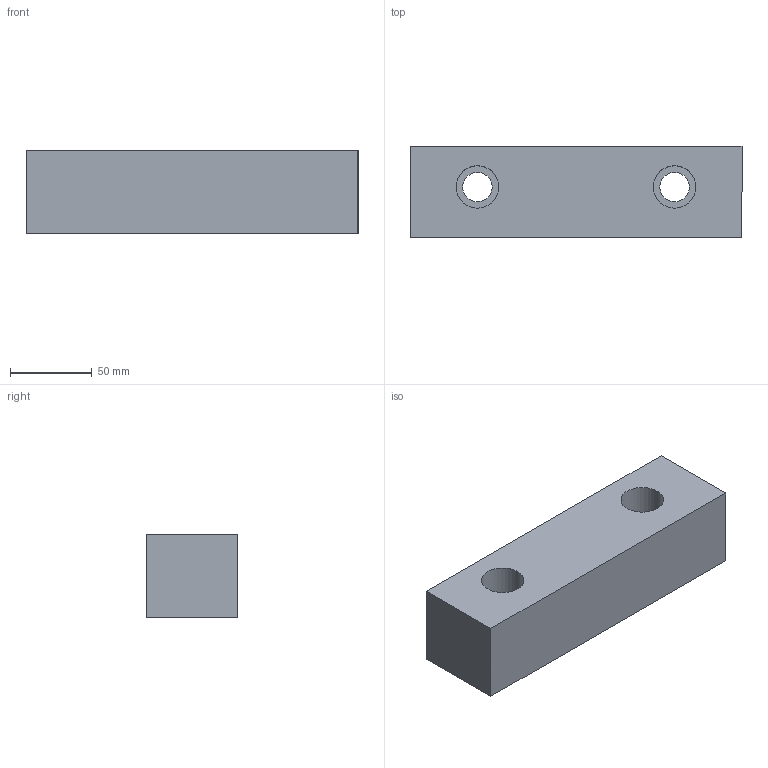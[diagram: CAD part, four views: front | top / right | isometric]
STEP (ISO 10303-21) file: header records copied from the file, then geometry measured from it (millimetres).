
FILE_DESCRIPTION (( 'STEP AP214' ), '1' );
FILE_NAME ('HKMVJ-82A, S [05-0235, 05-0238 ref].step', '2023-05-02T20:42:51', ( '' ), ( '' ), 'SwSTEP 2.0', 'SolidWorks 2022', '' );
FILE_SCHEMA (( 'AUTOMOTIVE_DESIGN' ));
Length unit declared in the file: inch
Products named in the file (1): HKMVJ-82A, S [05-0235, 05-0238 ref]
Bounding box: 203.2 x 55.88 x 50.8 mm (x, y, z)
Volume: 528853.8 mm3; surface area: 55770.2 mm2
Topology: 1 solids, 1 shells, 16 faces, 36 edges, 24 vertices
Faces by surface type: cylinder 8, plane 8
Entity records: 634 total; most frequent: DIRECTION 86, CARTESIAN_POINT 77, ORIENTED_EDGE 72, EDGE_CURVE 36, AXIS2_PLACEMENT_3D 33, VERTEX_POINT 24, EDGE_LOOP 22, LINE 20
